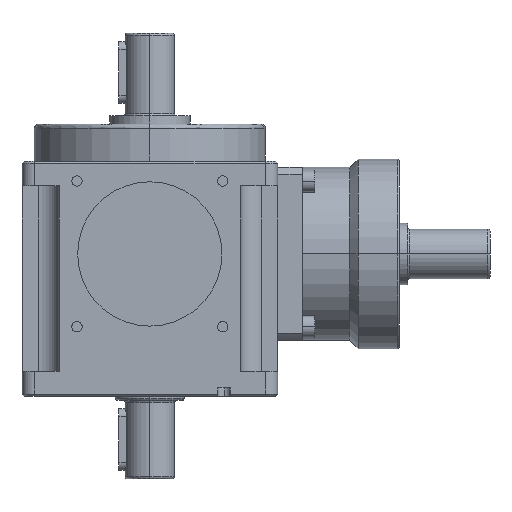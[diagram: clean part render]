
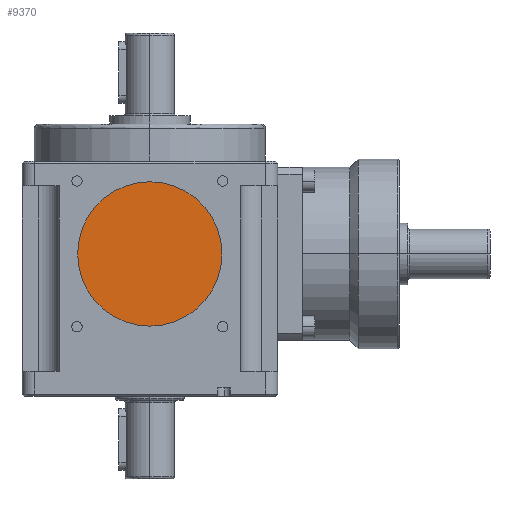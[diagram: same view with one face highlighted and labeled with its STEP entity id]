
A CAD part, left-side view. The second image highlights one B-rep face of the part: STEP entity #9370.
In plain terms, the highlighted planar face has unit normal (-1, 0, 0).
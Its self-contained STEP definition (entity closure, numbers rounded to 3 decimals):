
#299 = DIRECTION ( 'NONE',  ( 0., 0., -1. ) ) ;
#636 = DIRECTION ( 'NONE',  ( 0., 0., -1. ) ) ;
#1234 = VERTEX_POINT ( 'NONE', #2191 ) ;
#1954 = CARTESIAN_POINT ( 'NONE',  ( -28., 0., 0. ) ) ;
#2191 = CARTESIAN_POINT ( 'NONE',  ( -28., 0., -17.5 ) ) ;
#2296 = CARTESIAN_POINT ( 'NONE',  ( -28., 0., 0. ) ) ;
#2993 = CIRCLE ( 'NONE', #7723, 17.5 ) ;
#3070 = CARTESIAN_POINT ( 'NONE',  ( -28., 0., 0. ) ) ;
#3767 = VERTEX_POINT ( 'NONE', #5792 ) ;
#3822 = EDGE_CURVE ( 'NONE', #3767, #1234, #10466, .T. ) ;
#4129 = AXIS2_PLACEMENT_3D ( 'NONE', #2296, #8594, #299 ) ;
#5792 = CARTESIAN_POINT ( 'NONE',  ( -28., 0., 17.5 ) ) ;
#6343 = DIRECTION ( 'NONE',  ( -1., 0., 0. ) ) ;
#6485 = EDGE_LOOP ( 'NONE', ( #10382, #6673 ) ) ;
#6518 = DIRECTION ( 'NONE',  ( 0., 0., -1. ) ) ;
#6673 = ORIENTED_EDGE ( 'NONE', *, *, #7939, .T. ) ;
#6683 = DIRECTION ( 'NONE',  ( -1., 0., 0. ) ) ;
#6684 = AXIS2_PLACEMENT_3D ( 'NONE', #3070, #6683, #636 ) ;
#7691 = PLANE ( 'NONE',  #4129 ) ;
#7723 = AXIS2_PLACEMENT_3D ( 'NONE', #1954, #6343, #6518 ) ;
#7939 = EDGE_CURVE ( 'NONE', #1234, #3767, #2993, .T. ) ;
#8594 = DIRECTION ( 'NONE',  ( -1., 0., 0. ) ) ;
#8639 = FACE_OUTER_BOUND ( 'NONE', #6485, .T. ) ;
#9370 = ADVANCED_FACE ( 'NONE', ( #8639 ), #7691, .T. ) ;
#10382 = ORIENTED_EDGE ( 'NONE', *, *, #3822, .T. ) ;
#10466 = CIRCLE ( 'NONE', #6684, 17.5 ) ;
